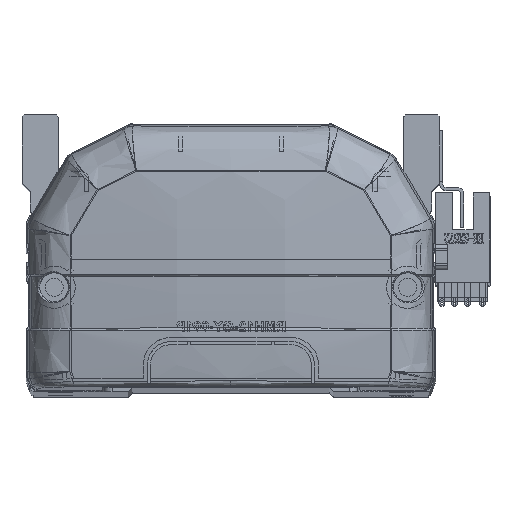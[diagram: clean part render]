
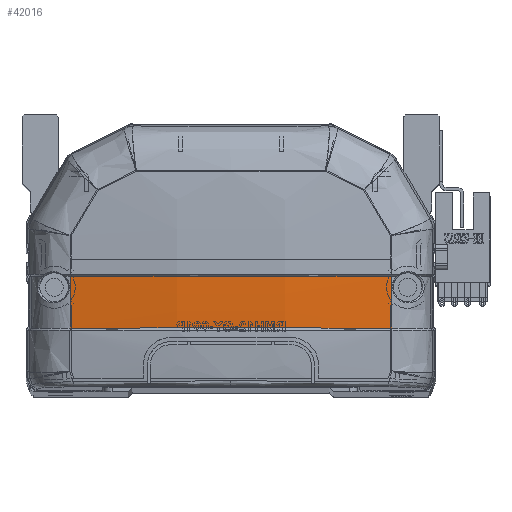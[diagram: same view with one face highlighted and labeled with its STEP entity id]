
A CAD part, top view. The second image highlights one B-rep face of the part: STEP entity #42016.
In plain terms, the highlighted free-form (B-spline) face has degree [3, 3] with [4, 4] control points.
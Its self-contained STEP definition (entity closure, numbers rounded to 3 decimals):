
#2084 = CARTESIAN_POINT ( 'NONE',  ( 13.38, 15.83, -8.984 ) ) ;
#2235 = CARTESIAN_POINT ( 'NONE',  ( 13.598, 24.342, -10.47 ) ) ;
#2664 = CARTESIAN_POINT ( 'NONE',  ( 39.963, 28.706, -6.372 ) ) ;
#4292 = CARTESIAN_POINT ( 'NONE',  ( 39.985, 15.83, -5.879 ) ) ;
#6232 = CARTESIAN_POINT ( 'NONE',  ( 26.761, 15.83, -7.945 ) ) ;
#6580 = CARTESIAN_POINT ( 'NONE',  ( 26.749, 28.706, -8.432 ) ) ;
#6633 = CARTESIAN_POINT ( 'NONE',  ( -36.679, 15.83, -6.395 ) ) ;
#8465 = CARTESIAN_POINT ( 'NONE',  ( -39.963, 28.706, -6.372 ) ) ;
#10547 = CARTESIAN_POINT ( 'NONE',  ( 13.375, 28.707, -9.468 ) ) ;
#10937 = CARTESIAN_POINT ( 'NONE',  ( 40.461, 20.111, -6.066 ) ) ;
#11042 = FACE_OUTER_BOUND ( 'NONE', #35366, .T. ) ;
#11191 = EDGE_CURVE ( 'NONE', #45569, #33821, #39625, .T. ) ;
#11418 = CARTESIAN_POINT ( 'NONE',  ( -23.389, 15.83, -7.947 ) ) ;
#11628 = CARTESIAN_POINT ( 'NONE',  ( 39.985, 15.83, -5.879 ) ) ;
#11768 = CARTESIAN_POINT ( 'NONE',  ( -40.461, 20.111, -6.066 ) ) ;
#11997 = ORIENTED_EDGE ( 'NONE', *, *, #52339, .F. ) ;
#12067 = VERTEX_POINT ( 'NONE', #2664 ) ;
#15418 = CARTESIAN_POINT ( 'NONE',  ( 39.985, 15.83, -5.879 ) ) ;
#15918 = CARTESIAN_POINT ( 'NONE',  ( -26.748, 28.706, -8.432 ) ) ;
#16325 = CARTESIAN_POINT ( 'NONE',  ( 40.461, 28.832, -6.296 ) ) ;
#20628 = CARTESIAN_POINT ( 'NONE',  ( 13.598, 19.918, -10.302 ) ) ;
#21024 = CARTESIAN_POINT ( 'NONE',  ( 40.461, 24.47, -6.231 ) ) ;
#21225 = CARTESIAN_POINT ( 'NONE',  ( -40.461, 15.757, -5.8 ) ) ;
#22523 = ORIENTED_EDGE ( 'NONE', *, *, #38277, .F. ) ;
#25336 = CARTESIAN_POINT ( 'NONE',  ( 13.598, 28.769, -10.535 ) ) ;
#26505 = CARTESIAN_POINT ( 'NONE',  ( -39.963, 28.706, -6.372 ) ) ;
#26823 = ORIENTED_EDGE ( 'NONE', *, *, #11191, .T. ) ;
#28762 = CARTESIAN_POINT ( 'NONE',  ( 39.963, 28.706, -6.372 ) ) ;
#29463 = CARTESIAN_POINT ( 'NONE',  ( 39.963, 28.706, -6.372 ) ) ;
#30248 = B_SPLINE_CURVE_WITH_KNOTS ( 'NONE', 3,
 ( #15418, #33892, #38017, #28762 ),
 .UNSPECIFIED., .F., .F.,
 ( 4, 4 ),
 ( 0., 1. ),
 .UNSPECIFIED. ) ;
#30286 = CARTESIAN_POINT ( 'NONE',  ( 13.598, 15.499, -10.032 ) ) ;
#30289 = CARTESIAN_POINT ( 'NONE',  ( -39.963, 28.706, -6.372 ) ) ;
#30481 = CARTESIAN_POINT ( 'NONE',  ( -13.598, 28.769, -10.535 ) ) ;
#31235 = CARTESIAN_POINT ( 'NONE',  ( -39.966, 24.412, -6.306 ) ) ;
#31837 = CARTESIAN_POINT ( 'NONE',  ( -39.985, 15.83, -5.879 ) ) ;
#33821 = VERTEX_POINT ( 'NONE', #58517 ) ;
#33892 = CARTESIAN_POINT ( 'NONE',  ( 39.973, 20.12, -6.142 ) ) ;
#34671 = VERTEX_POINT ( 'NONE', #4292 ) ;
#34809 = CARTESIAN_POINT ( 'NONE',  ( -40.461, 28.832, -6.296 ) ) ;
#34865 = CARTESIAN_POINT ( 'NONE',  ( -26.721, 15.83, -7.624 ) ) ;
#35366 = EDGE_LOOP ( 'NONE', ( #53828, #22523, #26823, #11997 ) ) ;
#38017 = CARTESIAN_POINT ( 'NONE',  ( 39.966, 24.413, -6.306 ) ) ;
#38277 = EDGE_CURVE ( 'NONE', #45569, #12067, #45376, .T. ) ;
#38699 = CARTESIAN_POINT ( 'NONE',  ( -13.373, 28.707, -9.468 ) ) ;
#38825 =( BOUNDED_SURFACE ( )  B_SPLINE_SURFACE ( 3, 3, ( 
 ( #58554, #10937, #21024, #16325 ),
 ( #30286, #20628, #2235, #25336 ),
 ( #53443, #39893, #58133, #30481 ),
 ( #21225, #11768, #53241, #34809 ) ),
 .UNSPECIFIED., .F., .F., .T. ) 
 B_SPLINE_SURFACE_WITH_KNOTS ( ( 4, 4 ),
 ( 4, 4 ),
 ( 0., 1. ),
 ( 0., 1. ),
 .UNSPECIFIED. ) 
 GEOMETRIC_REPRESENTATION_ITEM ( )  RATIONAL_B_SPLINE_SURFACE ( (
 ( 1., 1., 1., 1.),
 ( 0.992, 0.992, 0.992, 0.992),
 ( 0.992, 0.992, 0.992, 0.992),
 ( 1., 1., 1., 1.) ) ) 
 REPRESENTATION_ITEM ( '' )  SURFACE ( )  );
#39155 = CARTESIAN_POINT ( 'NONE',  ( -39.985, 15.83, -5.879 ) ) ;
#39625 = B_SPLINE_CURVE_WITH_KNOTS ( 'NONE', 3,
 ( #26505, #31235, #44335, #31837 ),
 .UNSPECIFIED., .F., .F.,
 ( 4, 4 ),
 ( 0., 1. ),
 .UNSPECIFIED. ) ;
#39893 = CARTESIAN_POINT ( 'NONE',  ( -13.598, 19.918, -10.302 ) ) ;
#42016 = ADVANCED_FACE ( 'NONE', ( #11042 ), #38825, .F. ) ;
#44335 = CARTESIAN_POINT ( 'NONE',  ( -39.973, 20.118, -6.142 ) ) ;
#44439 = CARTESIAN_POINT ( 'NONE',  ( -33.365, 15.83, -6.848 ) ) ;
#45376 = B_SPLINE_CURVE_WITH_KNOTS ( 'NONE', 3,
 ( #30289, #15918, #38699, #10547, #6580, #29463 ),
 .UNSPECIFIED., .F., .F.,
 ( 4, 2, 4 ),
 ( 0., 0.5, 1. ),
 .UNSPECIFIED. ) ;
#45569 = VERTEX_POINT ( 'NONE', #8465 ) ;
#45955 = B_SPLINE_CURVE_WITH_KNOTS ( 'NONE', 3,
 ( #11628, #6232, #2084, #53690, #58192, #11418, #34865, #44439, #6633, #39155 ),
 .UNSPECIFIED., .F., .F.,
 ( 4, 2, 2, 2, 4 ),
 ( 0., 0.04, 0.06, 0.07, 0.08 ),
 .UNSPECIFIED. ) ;
#48595 = EDGE_CURVE ( 'NONE', #34671, #12067, #30248, .T. ) ;
#52339 = EDGE_CURVE ( 'NONE', #34671, #33821, #45955, .T. ) ;
#53241 = CARTESIAN_POINT ( 'NONE',  ( -40.461, 24.47, -6.231 ) ) ;
#53443 = CARTESIAN_POINT ( 'NONE',  ( -13.598, 15.499, -10.032 ) ) ;
#53690 = CARTESIAN_POINT ( 'NONE',  ( -6.692, 15.83, -8.984 ) ) ;
#53828 = ORIENTED_EDGE ( 'NONE', *, *, #48595, .T. ) ;
#58133 = CARTESIAN_POINT ( 'NONE',  ( -13.598, 24.342, -10.47 ) ) ;
#58192 = CARTESIAN_POINT ( 'NONE',  ( -13.384, 15.83, -8.724 ) ) ;
#58517 = CARTESIAN_POINT ( 'NONE',  ( -39.985, 15.83, -5.879 ) ) ;
#58554 = CARTESIAN_POINT ( 'NONE',  ( 40.461, 15.757, -5.8 ) ) ;
